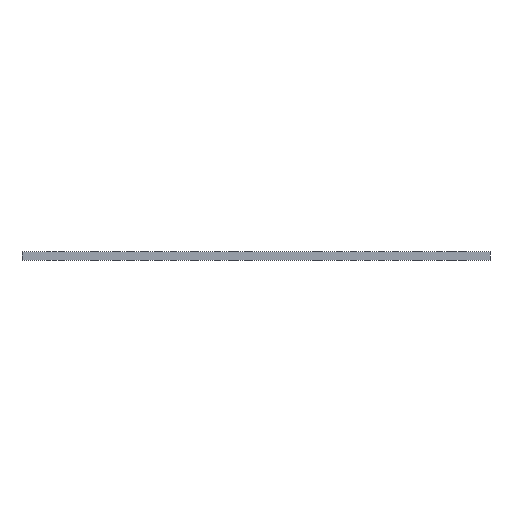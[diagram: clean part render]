
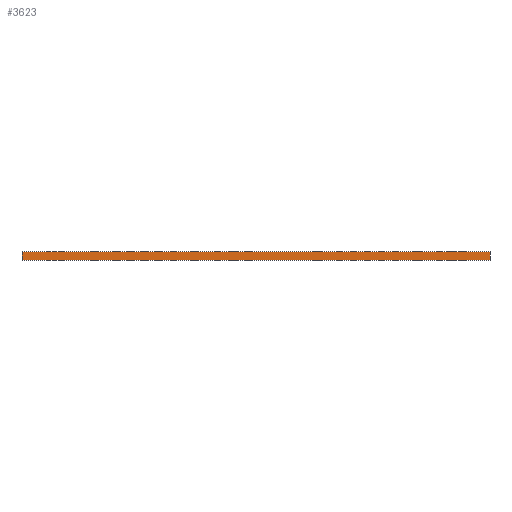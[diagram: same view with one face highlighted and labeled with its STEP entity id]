
A CAD part, front view. The second image highlights one B-rep face of the part: STEP entity #3623.
In plain terms, the highlighted planar face has unit normal (0, -1, 0).
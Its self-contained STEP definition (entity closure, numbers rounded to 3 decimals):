
#1=DIRECTION('',(0.,0.,-1.));
#2=VECTOR('',#1,1.6);
#3=CARTESIAN_POINT('',(0.,0.,1.6));
#4=LINE('',#3,#2);
#9=DIRECTION('',(-1.,0.,0.));
#10=VECTOR('',#9,84.);
#11=CARTESIAN_POINT('',(84.,0.,0.));
#12=LINE('',#11,#10);
#13=DIRECTION('',(0.,0.,-1.));
#14=VECTOR('',#13,1.6);
#15=CARTESIAN_POINT('',(84.,0.,1.6));
#16=LINE('',#15,#14);
#1013=DIRECTION('',(1.,0.,0.));
#1014=VECTOR('',#1013,84.);
#1015=CARTESIAN_POINT('',(0.,0.,1.6));
#1016=LINE('',#1015,#1014);
#2793=CARTESIAN_POINT('',(0.,0.,1.6));
#2794=CARTESIAN_POINT('',(0.,0.,0.));
#2795=VERTEX_POINT('',#2793);
#2796=VERTEX_POINT('',#2794);
#2801=CARTESIAN_POINT('',(84.,0.,0.));
#2802=VERTEX_POINT('',#2801);
#2803=CARTESIAN_POINT('',(84.,0.,1.6));
#2804=VERTEX_POINT('',#2803);
#3609=CARTESIAN_POINT('',(0.,0.,0.));
#3610=DIRECTION('',(0.,1.,0.));
#3611=DIRECTION('',(0.,0.,1.));
#3612=AXIS2_PLACEMENT_3D('',#3609,#3610,#3611);
#3613=PLANE('',#3612);
#3615=ORIENTED_EDGE('',*,*,#3614,.T.);
#3616=ORIENTED_EDGE('',*,*,#3598,.F.);
#3618=ORIENTED_EDGE('',*,*,#3617,.T.);
#3620=ORIENTED_EDGE('',*,*,#3619,.T.);
#3621=EDGE_LOOP('',(#3615,#3616,#3618,#3620));
#3622=FACE_OUTER_BOUND('',#3621,.F.);
#3623=ADVANCED_FACE('',(#3622),#3613,.F.);
#3598=EDGE_CURVE('',#2795,#2796,#4,.T.);
#3614=EDGE_CURVE('',#2802,#2796,#12,.T.);
#3617=EDGE_CURVE('',#2795,#2804,#1016,.T.);
#3619=EDGE_CURVE('',#2804,#2802,#16,.T.);
